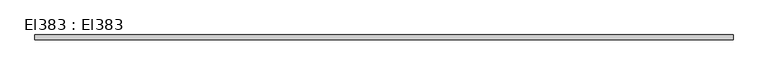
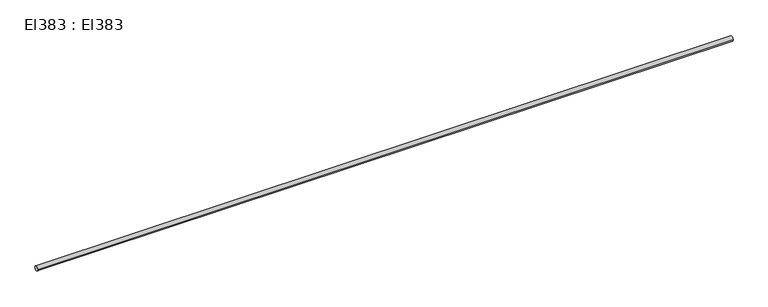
"""IFC4 building model written with IfcOpenShell, lengths in millimetres: cable carrier segment geometry, El383 : El383."""

from ifc_helpers import new_model, si_unit, point, frame, frame_2d, origin, place, context, project, spatial, circle_curve, trimmed, segment, composite_curve, outline, extrude, source, transform, mapped, element, save


def el383_el383_8ad8fbba(model_context):
    return source(origin(), model_context, "Body", "SweptSolid", [
        extrude(outline(composite_curve([segment(trimmed(circle_curve(frame_2d((22561.1, 0.0)), 9.5), [point((22551.6, 0.0))], [point((22570.6, 0.0))], False, "CARTESIAN"), True, "CONTINUOUS"), segment(trimmed(circle_curve(frame_2d((22561.1, 0.0)), 9.5), [point((22570.6, 0.0))], [point((22551.6, 0.0))], False, "CARTESIAN"), True, "CONTINUOUS")], self_intersect=False)), frame((6224.07, 0.0, 0.0), z_axis=(1.0, 0.0, 0.0), x_axis=(0.0, 1.0, 0.0)), (0.0, 0.0, 1.0), 2795.04),
    ])


if __name__ == "__main__":
    model = new_model("IFC4")
    model_context = context("Model", 3, world=origin())
    ifc_project = project(units=[si_unit("LENGTHUNIT", "METRE", prefix="MILLI")], contexts=[model_context])
    site = spatial("IfcSite", under=ifc_project)
    building = spatial("IfcBuilding", under=site)
    placement = place(None, origin())
    el383_el383_shape = el383_el383_8ad8fbba(model_context)
    element("IfcCableCarrierSegment", 1, ObjectType="El383 : El383", at=placement, inside=building, context=model_context, shape_type="MappedRepresentation", body=[
        mapped(el383_el383_shape, transform((0.0, 0.0, 0.0), x_axis=(1.0, 0.0, 0.0), y_axis=(0.0, 1.0, 0.0), z_axis=(0.0, 0.0, 1.0))),
    ])
    save(model, "model.ifc")
